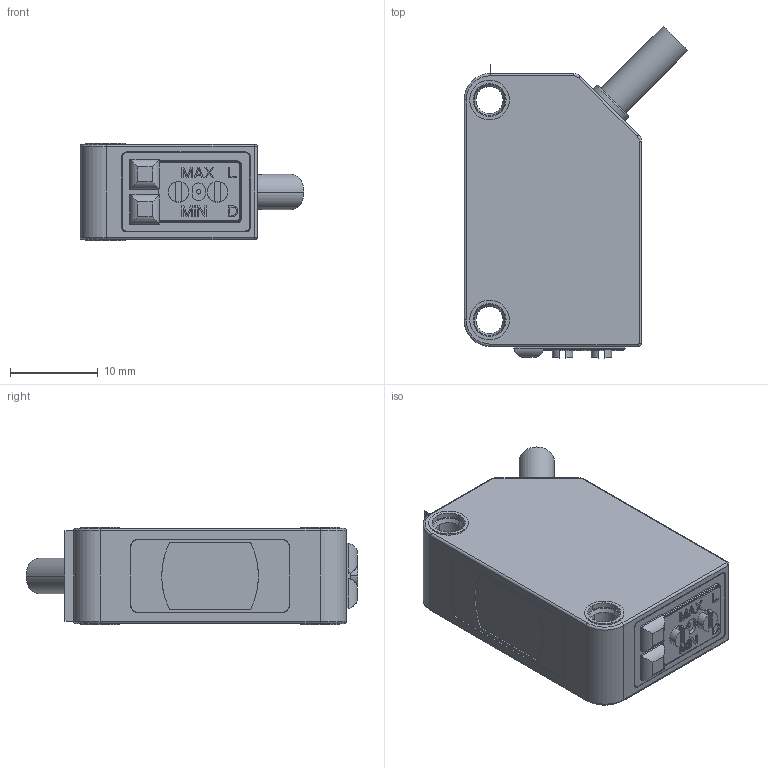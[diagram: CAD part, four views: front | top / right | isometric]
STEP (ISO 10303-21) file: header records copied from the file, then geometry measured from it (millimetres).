
FILE_DESCRIPTION((''),'2;1');
FILE_NAME('ASM-T61-JIESHOU_20180427_ASM','2018-07-21T09:01:08',('Administrator'),(''),'CREO PARAMETRIC BY PTC INC, 2016390','CREO PARAMETRIC BY PTC INC, 2016390','');
FILE_SCHEMA(('CONFIG_CONTROL_DESIGN'));
Length unit declared in the file: millimetre
Products named in the file (11): 2018-3-30-15002_2; 2018-3-30-16022_20_A; CH15003MOLD_1_7; T61_JIESHOU_PCB; T61_JIESHOU_GUANGMINDIANZHU; EW-R61PCB_2; DD_20180703; NOB; WEITIAONIU; CH15003MOLD_1_10; ASM-T61-JIESHOU_20180427_ASM
Assembly tree (12 placements, depth 2):
  ASM-T61-JIESHOU_20180427_ASM
    2018-3-30-15002_2
    2018-3-30-16022_20_A
    CH15003MOLD_1_7
    T61_JIESHOU_PCB
    T61_JIESHOU_GUANGMINDIANZHU
    EW-R61PCB_2
    DD_20180703
    NOB  x2
    WEITIAONIU  x2
    CH15003MOLD_1_10
Bounding box: 25.46 x 37.73 x 11.1 mm (x, y, z)
Volume: 3913.9 mm3; surface area: 7663.1 mm2
Topology: 13 solids, 13 shells, 749 faces, 2018 edges, 1329 vertices
Faces by surface type: plane 486, cylinder 136, cone 73, torus 22, bspline 22, extrusion 4, sphere 4, revolution 2
Entity records: 22744 total; most frequent: CARTESIAN_POINT 4934, ORIENTED_EDGE 3724, DIRECTION 3578, EDGE_CURVE 1862, VECTOR 1310, LINE 1306, VERTEX_POINT 1233, AXIS2_PLACEMENT_3D 1133
